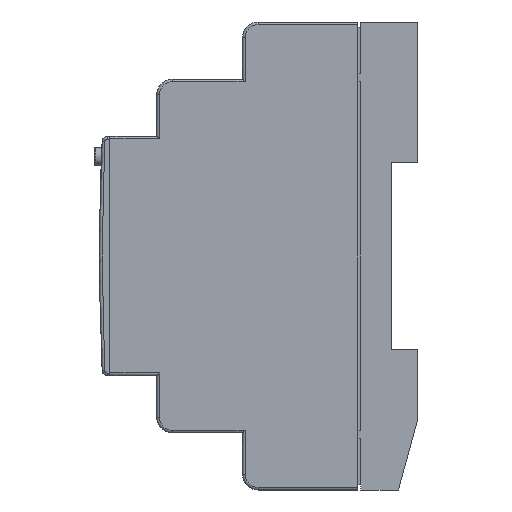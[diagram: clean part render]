
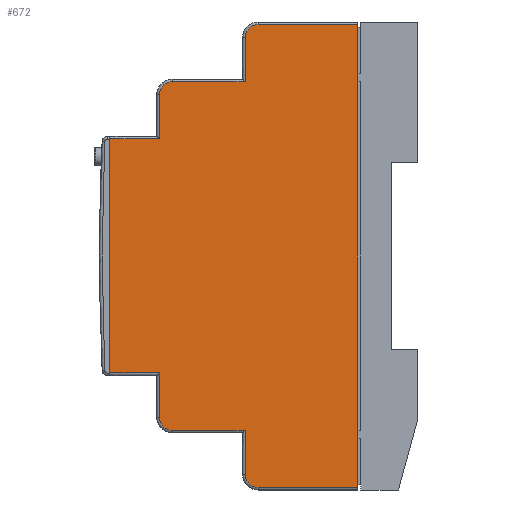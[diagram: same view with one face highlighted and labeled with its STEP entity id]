
A CAD part, left-side view. The second image highlights one B-rep face of the part: STEP entity #672.
In plain terms, the highlighted planar face has unit normal (-1, 0, 0).
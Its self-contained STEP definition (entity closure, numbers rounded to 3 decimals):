
#88 = EDGE_CURVE ( 'NONE', #11511, #16536, #805, .T. ) ;
#129 = CARTESIAN_POINT ( 'NONE',  ( -95.2, 42.161, 9.335 ) ) ;
#180 = CARTESIAN_POINT ( 'NONE',  ( -95.2, 58.661, -46.665 ) ) ;
#222 = CARTESIAN_POINT ( 'NONE',  ( -95.2, 58.661, -1.665 ) ) ;
#653 = VECTOR ( 'NONE', #13071, 1000. ) ;
#672 = ADVANCED_FACE ( 'NONE', ( #21500 ), #9360, .F. ) ;
#732 = ORIENTED_EDGE ( 'NONE', *, *, #16298, .T. ) ;
#736 = ORIENTED_EDGE ( 'NONE', *, *, #5257, .T. ) ;
#805 = LINE ( 'NONE', #21144, #14129 ) ;
#908 = CARTESIAN_POINT ( 'NONE',  ( -95.2, 56.161, 6.835 ) ) ;
#915 = LINE ( 'NONE', #14872, #17225 ) ;
#1011 = CARTESIAN_POINT ( 'NONE',  ( -95.2, 58.661, -1.165 ) ) ;
#1286 = CIRCLE ( 'NONE', #11300, 2.5 ) ;
#1399 = CARTESIAN_POINT ( 'NONE',  ( -95.2, 59.161, -46.665 ) ) ;
#1524 = VERTEX_POINT ( 'NONE', #7880 ) ;
#2114 = EDGE_CURVE ( 'NONE', #3076, #15446, #21191, .T. ) ;
#2152 = EDGE_CURVE ( 'NONE', #9155, #9575, #10312, .T. ) ;
#2541 = ORIENTED_EDGE ( 'NONE', *, *, #88, .F. ) ;
#2662 = DIRECTION ( 'NONE',  ( 0., 0., -1. ) ) ;
#2854 = ORIENTED_EDGE ( 'NONE', *, *, #4046, .T. ) ;
#3076 = VERTEX_POINT ( 'NONE', #10037 ) ;
#3334 = LINE ( 'NONE', #1011, #12029 ) ;
#3747 = CARTESIAN_POINT ( 'NONE',  ( -95.2, 20.461, -68.665 ) ) ;
#3905 = CARTESIAN_POINT ( 'NONE',  ( -95.2, 42.661, -57.665 ) ) ;
#3913 = ORIENTED_EDGE ( 'NONE', *, *, #10899, .T. ) ;
#4046 = EDGE_CURVE ( 'NONE', #19081, #5040, #14096, .T. ) ;
#4311 = CARTESIAN_POINT ( 'NONE',  ( -95.2, 39.661, -66.165 ) ) ;
#4562 = EDGE_CURVE ( 'NONE', #17273, #1524, #16535, .T. ) ;
#5040 = VERTEX_POINT ( 'NONE', #21002 ) ;
#5257 = EDGE_CURVE ( 'NONE', #11511, #3076, #10496, .T. ) ;
#5801 = AXIS2_PLACEMENT_3D ( 'NONE', #14549, #21529, #11128 ) ;
#5814 = LINE ( 'NONE', #16416, #653 ) ;
#5954 = EDGE_CURVE ( 'NONE', #7966, #12743, #3334, .T. ) ;
#6044 = DIRECTION ( 'NONE',  ( 0., 0., -1. ) ) ;
#6168 = LINE ( 'NONE', #3747, #14870 ) ;
#6861 = EDGE_LOOP ( 'NONE', ( #9303, #17324, #2541, #736, #18613, #16333, #2854, #732, #12925, #9243, #14992, #20345, #13369, #19940, #10509, #3913 ) ) ;
#6938 = DIRECTION ( 'NONE',  ( 0., 0., -1. ) ) ;
#7149 = DIRECTION ( 'NONE',  ( 0., -1., 0. ) ) ;
#7231 = DIRECTION ( 'NONE',  ( 0., 0., -1. ) ) ;
#7419 = VECTOR ( 'NONE', #9361, 1000. ) ;
#7498 = CARTESIAN_POINT ( 'NONE',  ( -95.2, 56.161, -55.165 ) ) ;
#7640 = CARTESIAN_POINT ( 'NONE',  ( -95.2, 68.161, -47.165 ) ) ;
#7865 = CARTESIAN_POINT ( 'NONE',  ( -95.2, 68.161, -46.665 ) ) ;
#7880 = CARTESIAN_POINT ( 'NONE',  ( -95.2, 58.661, -55.165 ) ) ;
#7966 = VERTEX_POINT ( 'NONE', #15700 ) ;
#8226 = CARTESIAN_POINT ( 'NONE',  ( -95.2, 39.661, 17.835 ) ) ;
#8943 = EDGE_CURVE ( 'NONE', #1524, #9155, #1286, .T. ) ;
#9008 = LINE ( 'NONE', #13866, #21783 ) ;
#9155 = VERTEX_POINT ( 'NONE', #16854 ) ;
#9230 = DIRECTION ( 'NONE',  ( 0., 0., -1. ) ) ;
#9243 = ORIENTED_EDGE ( 'NONE', *, *, #14706, .T. ) ;
#9303 = ORIENTED_EDGE ( 'NONE', *, *, #18492, .T. ) ;
#9352 = CARTESIAN_POINT ( 'NONE',  ( -95.2, 58.661, -55.165 ) ) ;
#9360 = PLANE ( 'NONE',  #5801 ) ;
#9361 = DIRECTION ( 'NONE',  ( 0., 0., 1. ) ) ;
#9575 = VERTEX_POINT ( 'NONE', #20321 ) ;
#9730 = CARTESIAN_POINT ( 'NONE',  ( -95.2, 20.461, 20.335 ) ) ;
#9957 = CARTESIAN_POINT ( 'NONE',  ( -95.2, 39.661, 20.335 ) ) ;
#9982 = DIRECTION ( 'NONE',  ( 0., 0., -1. ) ) ;
#10037 = CARTESIAN_POINT ( 'NONE',  ( -95.2, 39.661, 20.335 ) ) ;
#10312 = LINE ( 'NONE', #3905, #14399 ) ;
#10496 = LINE ( 'NONE', #9957, #15121 ) ;
#10509 = ORIENTED_EDGE ( 'NONE', *, *, #2152, .T. ) ;
#10899 = EDGE_CURVE ( 'NONE', #9575, #15974, #5814, .T. ) ;
#11128 = DIRECTION ( 'NONE',  ( 0., 0., -1. ) ) ;
#11300 = AXIS2_PLACEMENT_3D ( 'NONE', #7498, #19662, #9230 ) ;
#11511 = VERTEX_POINT ( 'NONE', #9730 ) ;
#11711 = DIRECTION ( 'NONE',  ( 0., 1., 0. ) ) ;
#12029 = VECTOR ( 'NONE', #21798, 1000. ) ;
#12341 = VERTEX_POINT ( 'NONE', #18043 ) ;
#12571 = EDGE_CURVE ( 'NONE', #15162, #17273, #19050, .T. ) ;
#12743 = VERTEX_POINT ( 'NONE', #222 ) ;
#12872 = DIRECTION ( 'NONE',  ( 0., 0., -1. ) ) ;
#12925 = ORIENTED_EDGE ( 'NONE', *, *, #5954, .T. ) ;
#13071 = DIRECTION ( 'NONE',  ( 0., 0., -1. ) ) ;
#13074 = DIRECTION ( 'NONE',  ( -1., 0., 0. ) ) ;
#13369 = ORIENTED_EDGE ( 'NONE', *, *, #4562, .T. ) ;
#13866 = CARTESIAN_POINT ( 'NONE',  ( -95.2, 42.161, 9.835 ) ) ;
#13871 = VECTOR ( 'NONE', #20539, 1000. ) ;
#14096 = LINE ( 'NONE', #17986, #17649 ) ;
#14129 = VECTOR ( 'NONE', #7231, 1000. ) ;
#14399 = VECTOR ( 'NONE', #19566, 1000. ) ;
#14549 = CARTESIAN_POINT ( 'NONE',  ( -95.2, 0., 0. ) ) ;
#14706 = EDGE_CURVE ( 'NONE', #12743, #12341, #915, .T. ) ;
#14870 = VECTOR ( 'NONE', #7149, 1000. ) ;
#14872 = CARTESIAN_POINT ( 'NONE',  ( -95.2, 68.161, -1.665 ) ) ;
#14992 = ORIENTED_EDGE ( 'NONE', *, *, #15076, .F. ) ;
#15076 = EDGE_CURVE ( 'NONE', #15162, #12341, #21276, .T. ) ;
#15121 = VECTOR ( 'NONE', #11711, 1000. ) ;
#15162 = VERTEX_POINT ( 'NONE', #7865 ) ;
#15446 = VERTEX_POINT ( 'NONE', #17208 ) ;
#15517 = EDGE_CURVE ( 'NONE', #15446, #19081, #9008, .T. ) ;
#15700 = CARTESIAN_POINT ( 'NONE',  ( -95.2, 58.661, 6.835 ) ) ;
#15974 = VERTEX_POINT ( 'NONE', #18798 ) ;
#16298 = EDGE_CURVE ( 'NONE', #5040, #7966, #19335, .T. ) ;
#16333 = ORIENTED_EDGE ( 'NONE', *, *, #15517, .T. ) ;
#16416 = CARTESIAN_POINT ( 'NONE',  ( -95.2, 42.161, -66.165 ) ) ;
#16472 = DIRECTION ( 'NONE',  ( -1., 0., 0. ) ) ;
#16535 = LINE ( 'NONE', #9352, #20609 ) ;
#16536 = VERTEX_POINT ( 'NONE', #18854 ) ;
#16642 = DIRECTION ( 'NONE',  ( 0., 1., 0. ) ) ;
#16824 = VERTEX_POINT ( 'NONE', #17932 ) ;
#16854 = CARTESIAN_POINT ( 'NONE',  ( -95.2, 56.161, -57.665 ) ) ;
#17208 = CARTESIAN_POINT ( 'NONE',  ( -95.2, 42.161, 17.835 ) ) ;
#17225 = VECTOR ( 'NONE', #16642, 1000. ) ;
#17273 = VERTEX_POINT ( 'NONE', #180 ) ;
#17324 = ORIENTED_EDGE ( 'NONE', *, *, #20238, .T. ) ;
#17635 = AXIS2_PLACEMENT_3D ( 'NONE', #8226, #20414, #9982 ) ;
#17649 = VECTOR ( 'NONE', #19715, 1000. ) ;
#17932 = CARTESIAN_POINT ( 'NONE',  ( -95.2, 39.661, -68.665 ) ) ;
#17986 = CARTESIAN_POINT ( 'NONE',  ( -95.2, 56.161, 9.335 ) ) ;
#18043 = CARTESIAN_POINT ( 'NONE',  ( -95.2, 68.161, -1.665 ) ) ;
#18492 = EDGE_CURVE ( 'NONE', #15974, #16824, #18975, .T. ) ;
#18613 = ORIENTED_EDGE ( 'NONE', *, *, #2114, .T. ) ;
#18798 = CARTESIAN_POINT ( 'NONE',  ( -95.2, 42.161, -66.165 ) ) ;
#18854 = CARTESIAN_POINT ( 'NONE',  ( -95.2, 20.461, -68.665 ) ) ;
#18975 = CIRCLE ( 'NONE', #21280, 2.5 ) ;
#19050 = LINE ( 'NONE', #1399, #13871 ) ;
#19081 = VERTEX_POINT ( 'NONE', #129 ) ;
#19335 = CIRCLE ( 'NONE', #20545, 2.5 ) ;
#19566 = DIRECTION ( 'NONE',  ( 0., -1., 0. ) ) ;
#19662 = DIRECTION ( 'NONE',  ( -1., 0., 0. ) ) ;
#19715 = DIRECTION ( 'NONE',  ( 0., 1., 0. ) ) ;
#19940 = ORIENTED_EDGE ( 'NONE', *, *, #8943, .T. ) ;
#20238 = EDGE_CURVE ( 'NONE', #16824, #16536, #6168, .T. ) ;
#20321 = CARTESIAN_POINT ( 'NONE',  ( -95.2, 42.161, -57.665 ) ) ;
#20345 = ORIENTED_EDGE ( 'NONE', *, *, #12571, .T. ) ;
#20414 = DIRECTION ( 'NONE',  ( -1., 0., 0. ) ) ;
#20539 = DIRECTION ( 'NONE',  ( 0., -1., 0. ) ) ;
#20545 = AXIS2_PLACEMENT_3D ( 'NONE', #908, #13074, #2662 ) ;
#20609 = VECTOR ( 'NONE', #12872, 1000. ) ;
#21002 = CARTESIAN_POINT ( 'NONE',  ( -95.2, 56.161, 9.335 ) ) ;
#21144 = CARTESIAN_POINT ( 'NONE',  ( -95.2, 20.461, 20.835 ) ) ;
#21191 = CIRCLE ( 'NONE', #17635, 2.5 ) ;
#21276 = LINE ( 'NONE', #7640, #7419 ) ;
#21280 = AXIS2_PLACEMENT_3D ( 'NONE', #4311, #16472, #6044 ) ;
#21500 = FACE_OUTER_BOUND ( 'NONE', #6861, .T. ) ;
#21529 = DIRECTION ( 'NONE',  ( 1., 0., 0. ) ) ;
#21783 = VECTOR ( 'NONE', #6938, 1000. ) ;
#21798 = DIRECTION ( 'NONE',  ( 0., 0., -1. ) ) ;
